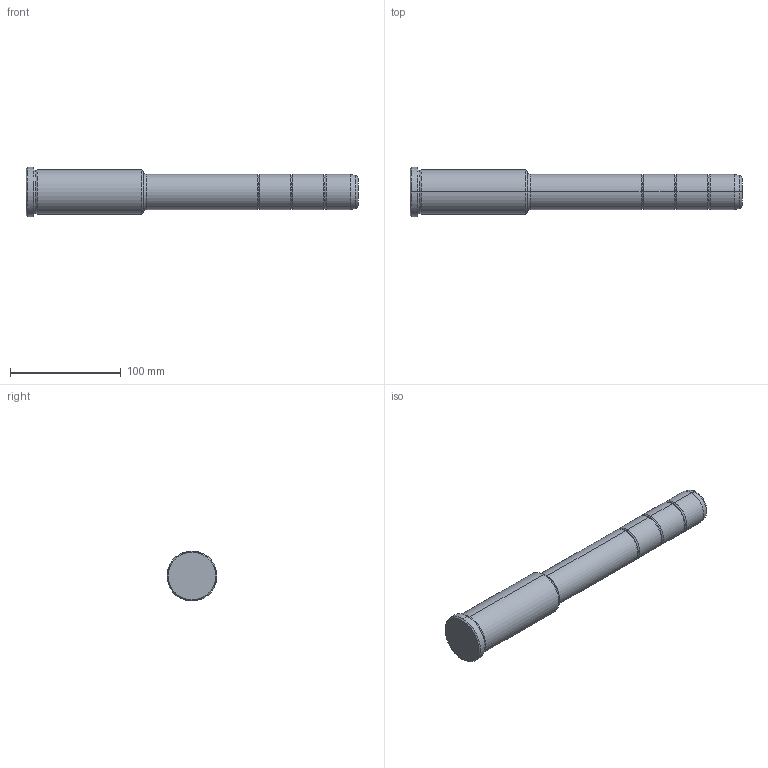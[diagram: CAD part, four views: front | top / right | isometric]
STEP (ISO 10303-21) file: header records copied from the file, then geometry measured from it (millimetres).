
FILE_DESCRIPTION(('CATIA V5 STEP Exchange'),'2;1');
FILE_NAME('C:\Users\Utente\Desktop\IO LAVORO\3D X SITO CF\X SITO\PLASTICA\351\351-32X106X300.stp','2021-09-15T11:43:54+00:00',('none'),('none'),'CATIA Version 5 Release 20 GA (IN-10)','CATIA V5 STEP AP203','none');
FILE_SCHEMA(('CONFIG_CONTROL_DESIGN'));
Length unit declared in the file: millimetre
Products named in the file (1): 351-32X106X300
Bounding box: 300 x 45 x 45 mm (x, y, z)
Volume: 290217 mm3; surface area: 35738.7 mm2
Topology: 1 solids, 1 shells, 42 faces, 118 edges, 80 vertices
Faces by surface type: torus 20, cylinder 12, cone 6, plane 4
Entity records: 1472 total; most frequent: CARTESIAN_POINT 353, ORIENTED_EDGE 236, DIRECTION 194, AXIS2_PLACEMENT_3D 135, EDGE_CURVE 118, CIRCLE 92, VERTEX_POINT 80, EDGE_LOOP 44
